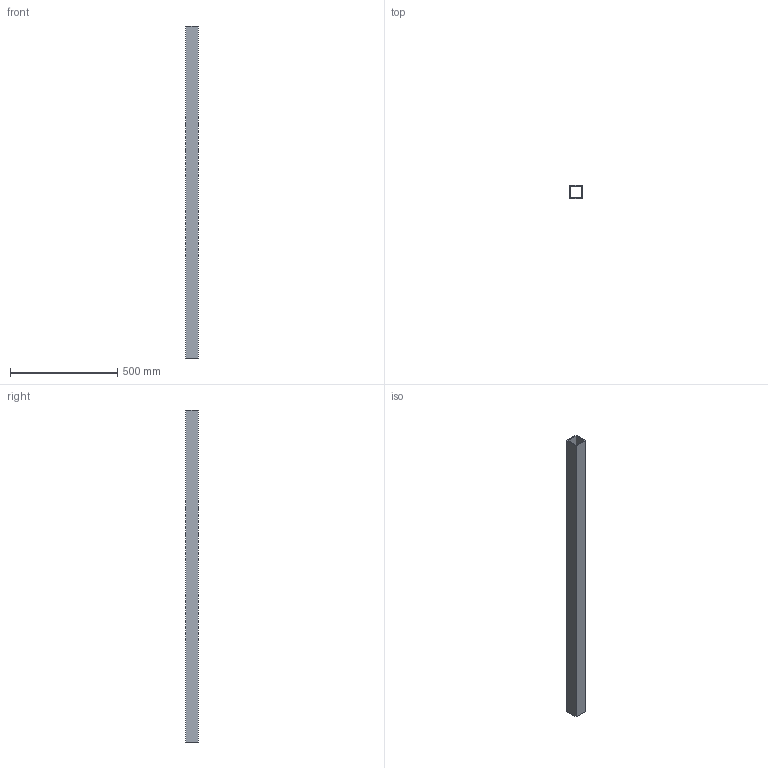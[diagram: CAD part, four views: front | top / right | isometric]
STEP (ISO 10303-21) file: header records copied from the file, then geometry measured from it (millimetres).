
FILE_DESCRIPTION(('Open CASCADE Model'),'2;1');
FILE_NAME('Open CASCADE Shape Model','2026-10-19T10:09:19',('Author'),( 'Open CASCADE'),'Open CASCADE STEP processor 8.0','Open CASCADE 8.0' ,'Unknown');
FILE_SCHEMA(('AUTOMOTIVE_DESIGN { 1 0 10303 214 1 1 1 1 }'));
Length unit declared in the file: millimetre
Products named in the file (1): SHS60x60x4_L1550000_P05 8
Bounding box: 60 x 60 x 1550 mm (x, y, z)
Volume: 1388800 mm3; surface area: 696192 mm2
Topology: 1 solids, 1 shells, 10 faces, 24 edges, 16 vertices
Faces by surface type: plane 10
Entity records: 614 total; most frequent: CARTESIAN_POINT 99, DIRECTION 94, LINE 72, VECTOR 72, ORIENTED_EDGE 48, PCURVE 48, DEFINITIONAL_REPRESENTATION 48, EDGE_CURVE 24
